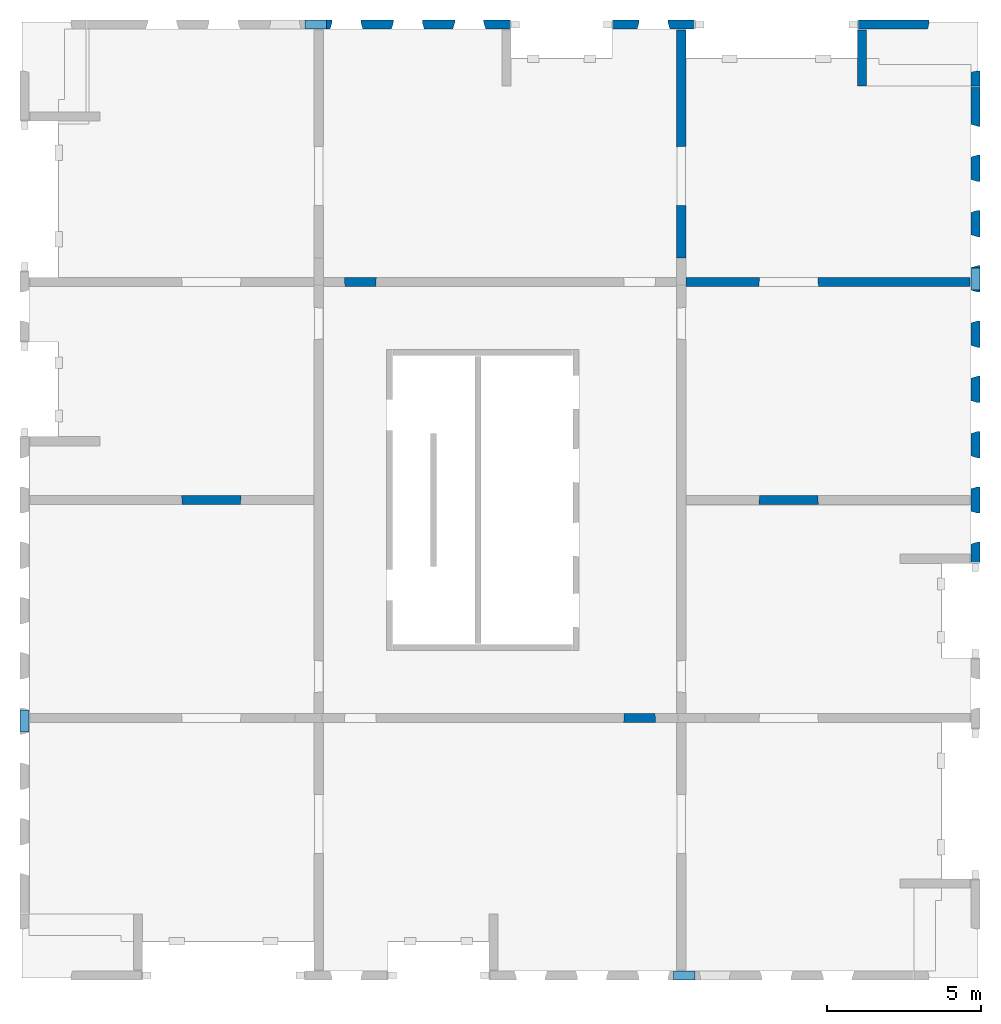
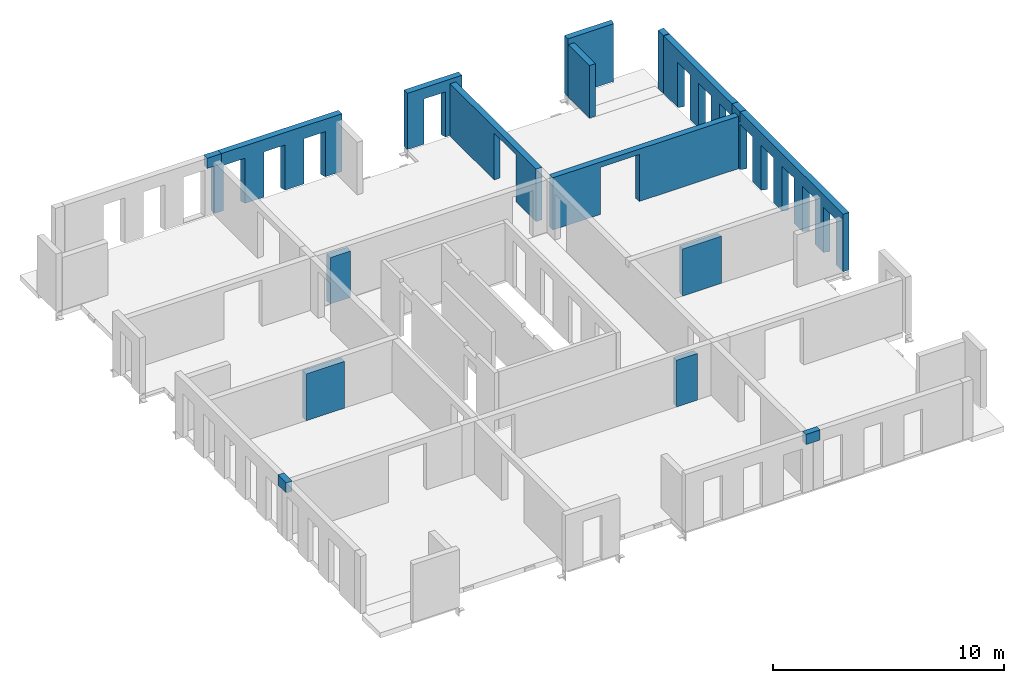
# One storey, part 4 of 5: 17 walls, 19 openings.
"""IFC2X3 building model written with IfcOpenShell, lengths in millimetres."""

from ifc_helpers import new_model, entity, si_unit, converted_unit, derived_unit, direction, frame, frame_2d, origin, place, context, subcontext, project, spatial, rectangle, extrude, faceted_brep, material, layer, layer_set, layer_usage, type_object, element, save


model = new_model("IFC2X3")

# Units and contexts
model_context = context("Model", 3, precision=0.01, world=origin(), true_north=direction((6.12303176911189e-17, 1.0)))
body_context = subcontext(model_context, "Body", "Model", "MODEL_VIEW")
ifc_project = project(units=[si_unit("LENGTHUNIT", "METRE", prefix="MILLI"), si_unit("AREAUNIT", "SQUARE_METRE"), si_unit("VOLUMEUNIT", "CUBIC_METRE"), converted_unit("PLANEANGLEUNIT", "DEGREE", entity("IfcRatioMeasure", 0.0174532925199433), si_unit("PLANEANGLEUNIT", "RADIAN"), dimensions=[0, 0, 0, 0, 0, 0, 0]), si_unit("MASSUNIT", "GRAM", prefix="KILO"), derived_unit("MASSDENSITYUNIT", [(si_unit("MASSUNIT", "GRAM", prefix="KILO"), 1), (si_unit("LENGTHUNIT", "METRE"), -3)]), si_unit("TIMEUNIT", "SECOND"), si_unit("FREQUENCYUNIT", "HERTZ"), si_unit("THERMODYNAMICTEMPERATUREUNIT", "DEGREE_CELSIUS"), derived_unit("THERMALTRANSMITTANCEUNIT", [(si_unit("MASSUNIT", "GRAM", prefix="KILO"), 1), (si_unit("THERMODYNAMICTEMPERATUREUNIT", "KELVIN"), -1), (si_unit("TIMEUNIT", "SECOND"), -3)]), derived_unit("VOLUMETRICFLOWRATEUNIT", [(si_unit("LENGTHUNIT", "METRE"), 3), (si_unit("TIMEUNIT", "SECOND"), -1)]), si_unit("ELECTRICCURRENTUNIT", "AMPERE"), si_unit("ELECTRICVOLTAGEUNIT", "VOLT"), si_unit("POWERUNIT", "WATT"), si_unit("FORCEUNIT", "NEWTON", prefix="KILO"), si_unit("ILLUMINANCEUNIT", "LUX"), si_unit("LUMINOUSFLUXUNIT", "LUMEN"), si_unit("LUMINOUSINTENSITYUNIT", "CANDELA"), derived_unit("USERDEFINED", [(si_unit("MASSUNIT", "GRAM", prefix="KILO"), -1), (si_unit("LENGTHUNIT", "METRE"), -2), (si_unit("TIMEUNIT", "SECOND"), 3), (si_unit("LUMINOUSFLUXUNIT", "LUMEN"), 1)]), derived_unit("LINEARVELOCITYUNIT", [(si_unit("LENGTHUNIT", "METRE"), 1), (si_unit("TIMEUNIT", "SECOND"), -1)]), si_unit("PRESSUREUNIT", "PASCAL"), derived_unit("USERDEFINED", [(si_unit("LENGTHUNIT", "METRE"), -2), (si_unit("MASSUNIT", "GRAM", prefix="KILO"), 1), (si_unit("TIMEUNIT", "SECOND"), -2)])], contexts=[model_context])

# Site, building, storey
site_placement = place(None, origin())
site = spatial("IfcSite", under=ifc_project, at=site_placement, Name="Default", CompositionType="ELEMENT")
building_placement = place(site_placement, origin())
building = spatial("IfcBuilding", under=site, at=building_placement, Name="niet gebruiken", CompositionType="ELEMENT")
storey_placement = place(building_placement, frame((0.0, 0.0, 158760.0)))
storey = spatial("IfcBuildingStorey", under=building, at=storey_placement, Name="51 eenenvijftigste verdieping", CompositionType="ELEMENT", Elevation=158760.0)

# Wall, opening
ifc_material_1 = material(Name="NLRS_f2_beton prefab")
ifc_layer_1 = layer(ifc_material_1, 300.0)
ifc_layer_set_1 = layer_set([ifc_layer_1], Name="Basic Wall:NLRS_22.21_WA_beton prefab d=300_gen")
ifc_layer_usage_1 = layer_usage(ifc_layer_set_1, "AXIS2", "NEGATIVE", 150.0)
wall_type_1 = type_object("IfcWallType", Name="Basic Wall:NLRS_22.21_WA_beton prefab d=300_gen", PredefinedType="STANDARD", material=ifc_layer_set_1)
wall_1_placement = place(storey_placement, frame((145390.0, 32980.0, -50.0)))
wall_1 = element("IfcWallStandardCase", 1, at=wall_1_placement, inside=storey, type_object=wall_type_1, material=ifc_layer_usage_1, Name="Basic Wall:NLRS_22.21_WA_beton prefab d=300_gen", ObjectType="Basic Wall:NLRS_22.21_WA_beton prefab d=300_gen", context=body_context, shape_type="SweptSolid", body=[
    extrude(rectangle(XDim=2720.00000000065, YDim=300.000000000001, at=frame_2d((1360.00000000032, -4.54747350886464e-13), x_axis=(-1.0, 0.0))), origin(), (0.0, 0.0, 1.0), 2970.00000000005),
])
opening_1_placement = place(wall_1_placement, frame((825.0, -150.0, -20.0)))
element("IfcOpeningElement", 2, at=opening_1_placement, cuts=wall_1, Name="Basic Wall:NLRS_22.21_WA_beton prefab d=300_gen", ObjectType="Opening", context=body_context, shape_type="Brep", body=[
    faceted_brep([(0.0, 0.0, 2405.0), (0.0, 0.0, 0.0), (1070.0, 0.0, 0.0), (1070.0, 0.0, 2405.0), (1005.0, 219.0, 2370.0), (65.0, 219.0, 2370.0), (1005.0, 219.0, 0.0), (65.0, 219.0, 0.0), (65.0, 300.0, 0.0), (1005.0, 300.0, 0.0), (65.0, 300.0, 2370.0), (1005.0, 300.0, 2370.0)], [[[0, 1, 2, 3]], [[3, 4, 5, 0]], [[2, 6, 4, 3]], [[1, 7, 8, 9, 6, 2]], [[0, 5, 7, 1]], [[10, 11, 9, 8]], [[10, 5, 4, 11]], [[11, 4, 6, 9]], [[8, 7, 5, 10]]]),
])

ifc_layer_usage_2 = layer_usage(ifc_layer_set_1, "AXIS2", "NEGATIVE", 150.0)
wall_2_placement = place(storey_placement, frame((157060.0, 24600.0, -60.0), z_axis=(0.0, 0.0, 1.0), x_axis=(-1.0, 0.0, 0.0)))
wall_2 = element("IfcWallStandardCase", 3, at=wall_2_placement, inside=storey, type_object=wall_type_1, material=ifc_layer_usage_2, Name="Basic Wall:NLRS_22.21_WA_beton prefab d=300_gen", ObjectType="Basic Wall:NLRS_22.21_WA_beton prefab d=300_gen", context=body_context, shape_type="SweptSolid", body=[
    extrude(rectangle(XDim=9260.00000000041, YDim=300.000000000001, at=frame_2d((4630.0000000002, -1.69109171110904e-12), x_axis=(-1.0, 0.0))), origin(), (0.0, 0.0, 1.0), 2760.0),
])
opening_2_placement = place(wall_2_placement, frame((6878.0, 150.0, -10.0)))
element("IfcOpeningElement", 4, at=opening_2_placement, cuts=wall_2, Name="Basic Wall:NLRS_22.21_WA_beton prefab d=300_gen", ObjectType="Opening", context=body_context, shape_type="Brep", body=[
    faceted_brep([(-18.0, -300.0, 2470.0), (-1918.0, -300.0, 2470.0), (-1918.0, -300.0, 0.0), (-18.0, -300.0, 0.0), (0.0, 0.0, 2488.0), (0.0, 0.0, 0.0), (-1936.0, 0.0, 0.0), (-1936.0, 0.0, 2488.0)], [[[0, 1, 2, 3]], [[4, 5, 6, 7]], [[4, 7, 1, 0]], [[7, 6, 2, 1]], [[6, 5, 3, 2]], [[5, 4, 0, 3]]]),
])

ifc_layer_usage_3 = layer_usage(ifc_layer_set_1, "AXIS2", "NEGATIVE", 150.0)
wall_3_placement = place(storey_placement, frame((147650.0, 25380.0, -70.0), z_axis=(0.0, 0.0, 1.0), x_axis=(0.0, 1.0, 0.0)))
wall_3 = element("IfcWallStandardCase", 5, at=wall_3_placement, inside=storey, type_object=wall_type_1, material=ifc_layer_usage_3, Name="Basic Wall:NLRS_22.21_WA_beton prefab d=300_gen", ObjectType="Basic Wall:NLRS_22.21_WA_beton prefab d=300_gen", context=body_context, shape_type="SweptSolid", body=[
    extrude(rectangle(XDim=7429.99999999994, YDim=300.000000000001, at=frame_2d((3714.99999999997, 7.14805992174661e-12), x_axis=(-1.0, 0.0))), origin(), (0.0, 0.0, 1.0), 2769.99999999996),
])
opening_3_placement = place(wall_3_placement, frame((1702.0, 150.0, 0.0)))
element("IfcOpeningElement", 6, at=opening_3_placement, cuts=wall_3, Name="Basic Wall:NLRS_22.21_WA_beton prefab d=300_gen", ObjectType="Opening", context=body_context, shape_type="Brep", body=[
    faceted_brep([(1918.0, 0.0, 2470.0), (1918.0, 0.0, 0.0), (18.0, 0.0, 0.0), (18.0, 0.0, 2470.0), (1936.0, -300.0, 2488.0), (0.0, -300.0, 2488.0), (0.0, -300.0, 0.0), (1936.0, -300.0, 0.0)], [[[0, 1, 2, 3]], [[4, 5, 6, 7]], [[4, 0, 3, 5]], [[5, 3, 2, 6]], [[6, 2, 1, 7]], [[7, 1, 0, 4]]]),
])

# Walls
ifc_layer_usage_4 = layer_usage(ifc_layer_set_1, "AXIS2", "NEGATIVE", 150.0)
wall_4_placement = place(storey_placement, frame((153540.0, 32810.0, -70.0), z_axis=(0.0, 0.0, 1.0), x_axis=(0.0, -1.0, 0.0)))
element("IfcWallStandardCase", 7, at=wall_4_placement, inside=storey, type_object=wall_type_1, material=ifc_layer_usage_4, Name="Basic Wall:NLRS_22.21_WA_beton prefab d=300_gen", ObjectType="Basic Wall:NLRS_22.21_WA_beton prefab d=300_gen", context=body_context, shape_type="SweptSolid", body=[
    extrude(rectangle(XDim=1829.99999999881, YDim=300.000000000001, at=frame_2d((914.999999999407, -2.07478478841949e-12), x_axis=(-1.0, 0.0))), origin(), (0.0, 0.0, 1.0), 2769.99999999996),
])
ifc_material_2 = material(Name="NLRS_f2_beton ihwg")
ifc_layer_2 = layer(ifc_material_2, 300.0)
ifc_layer_set_2 = layer_set([ifc_layer_2], Name="Basic Wall:NLRS_21.21_WA_beton ihwg d=300_gen")
ifc_layer_usage_5 = layer_usage(ifc_layer_set_2, "AXIS2", "NEGATIVE", 150.0)
wall_type_2 = type_object("IfcWallType", Name="Basic Wall:NLRS_21.21_WA_beton ihwg d=300_gen", PredefinedType="STANDARD", material=ifc_layer_set_2)
wall_5_placement = place(storey_placement, frame((148105.0, 2020.0, 2455.0), z_axis=(0.0, 0.0, 1.0), x_axis=(-1.0, 0.0, 0.0)))
element("IfcWallStandardCase", 8, at=wall_5_placement, inside=storey, type_object=wall_type_2, material=ifc_layer_usage_5, Name="Basic Wall:NLRS_21.21_WA_beton ihwg d=300_gen", ObjectType="Basic Wall:NLRS_21.21_WA_beton ihwg d=300_gen", context=body_context, shape_type="SweptSolid", body=[
    extrude(rectangle(XDim=710.000000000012, YDim=300.0, at=frame_2d((355.000000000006, -1.4210854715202e-14), x_axis=(-1.0, 0.0))), origin(), (0.0, 0.0, 1.0), 535.0),
])
ifc_layer_usage_6 = layer_usage(ifc_layer_set_2, "AXIS2", "NEGATIVE", 150.0)
wall_6_placement = place(storey_placement, frame((135395.0, 32980.0, 2455.0)))
element("IfcWallStandardCase", 9, at=wall_6_placement, inside=storey, type_object=wall_type_2, material=ifc_layer_usage_6, Name="Basic Wall:NLRS_21.21_WA_beton ihwg d=300_gen", ObjectType="Basic Wall:NLRS_21.21_WA_beton ihwg d=300_gen", context=body_context, shape_type="SweptSolid", body=[
    extrude(rectangle(XDim=710.000000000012, YDim=300.000000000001, at=frame_2d((355.000000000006, 0.0), x_axis=(-1.0, 0.0))), origin(), (0.0, 0.0, 1.0), 535.0),
])
ifc_layer_usage_7 = layer_usage(ifc_layer_set_2, "AXIS2", "NEGATIVE", 150.0)
wall_7_placement = place(storey_placement, frame((157230.0, 25055.0, 2455.0), z_axis=(0.0, 0.0, 1.0), x_axis=(0.0, -1.0, 0.0)))
element("IfcWallStandardCase", 10, at=wall_7_placement, inside=storey, type_object=wall_type_2, material=ifc_layer_usage_7, Name="Basic Wall:NLRS_21.21_WA_beton ihwg d=300_gen", ObjectType="Basic Wall:NLRS_21.21_WA_beton ihwg d=300_gen", context=body_context, shape_type="SweptSolid", body=[
    extrude(rectangle(XDim=710.000000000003, YDim=300.000000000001, at=frame_2d((355.000000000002, 9.9475983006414e-13), x_axis=(-1.0, 0.0))), origin(), (0.0, 0.0, 1.0), 535.0),
])
ifc_layer_usage_8 = layer_usage(ifc_layer_set_2, "AXIS2", "NEGATIVE", 150.0)
wall_8_placement = place(storey_placement, frame((126270.0, 9945.0, 2455.0), z_axis=(0.0, 0.0, 1.0), x_axis=(0.0, 1.0, 0.0)))
element("IfcWallStandardCase", 11, at=wall_8_placement, inside=storey, type_object=wall_type_2, material=ifc_layer_usage_8, Name="Basic Wall:NLRS_21.21_WA_beton ihwg d=300_gen", ObjectType="Basic Wall:NLRS_21.21_WA_beton ihwg d=300_gen", context=body_context, shape_type="SweptSolid", body=[
    extrude(rectangle(XDim=710.000000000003, YDim=300.000000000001, at=frame_2d((355.000000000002, 0.0), x_axis=(-1.0, 0.0))), origin(), (0.0, 0.0, 1.0), 535.0),
])

# Wall, openings
ifc_layer_3 = layer(ifc_material_1, 300.0)
ifc_layer_set_3 = layer_set([ifc_layer_3], Name="Basic Wall:NLRS_21.21_WA_beton prefab d=300/320_gen")
ifc_layer_usage_9 = layer_usage(ifc_layer_set_3, "AXIS2", "NEGATIVE", 150.0)
wall_type_3 = type_object("IfcWallType", Name="Basic Wall:NLRS_21.21_WA_beton prefab d=300/320_gen", PredefinedType="STANDARD", material=ifc_layer_set_3)
wall_9_placement = place(storey_placement, frame((157230.0, 30960.0, -50.0), z_axis=(0.0, 0.0, 1.0), x_axis=(0.0, -1.0, 0.0)))
wall_9 = element("IfcWallStandardCase", 12, at=wall_9_placement, inside=storey, type_object=wall_type_3, material=ifc_layer_usage_9, Name="Basic Wall:NLRS_21.21_WA_beton prefab d=300/320_gen", ObjectType="Basic Wall:NLRS_21.21_WA_beton prefab d=300/320_gen", context=body_context, shape_type="SweptSolid", body=[
    extrude(rectangle(XDim=6249.99999999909, YDim=300.000000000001, at=frame_2d((3124.99999999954, -8.61177795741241e-12), x_axis=(-1.0, 0.0))), origin(), (0.0, 0.0, 1.0), 3040.0),
])
opening_4_placement = place(wall_9_placement, frame((2295.0, -150.0, -20.0)))
element("IfcOpeningElement", 13, at=opening_4_placement, cuts=wall_9, Name="Basic Wall:NLRS_21.21_WA_beton prefab d=300/320_gen", ObjectType="Opening", context=body_context, shape_type="Brep", body=[
    faceted_brep([(-1070.0, 0.0, 2405.0), (-1070.0, 0.0, 0.0), (0.0, 0.0, 0.0), (0.0, 0.0, 2405.0), (-65.0, 219.0, 2370.0), (-1005.0, 219.0, 2370.0), (-65.0, 219.0, 0.0), (-1005.0, 219.0, 0.0), (-1005.0, 300.0, 0.0), (-65.0, 300.0, 0.0), (-1005.0, 300.0, 2370.0), (-65.0, 300.0, 2370.0)], [[[0, 1, 2, 3]], [[3, 4, 5, 0]], [[2, 6, 4, 3]], [[1, 7, 8, 9, 6, 2]], [[0, 5, 7, 1]], [[10, 11, 9, 8]], [[10, 5, 4, 11]], [[11, 4, 6, 9]], [[8, 7, 5, 10]]]),
])
opening_5_placement = place(wall_9_placement, frame((4095.0, -150.0, -20.0)))
element("IfcOpeningElement", 14, at=opening_5_placement, cuts=wall_9, Name="Basic Wall:NLRS_21.21_WA_beton prefab d=300/320_gen", ObjectType="Opening", context=body_context, shape_type="Brep", body=[
    faceted_brep([(-1070.0, 0.0, 2405.0), (-1070.0, 0.0, 0.0), (0.0, 0.0, 0.0), (0.0, 0.0, 2405.0), (-65.0, 219.0, 2370.0), (-1005.0, 219.0, 2370.0), (-65.0, 219.0, 0.0), (-1005.0, 219.0, 0.0), (-1005.0, 300.0, 0.0), (-65.0, 300.0, 0.0), (-1005.0, 300.0, 2370.0), (-65.0, 300.0, 2370.0)], [[[0, 1, 2, 3]], [[3, 4, 5, 0]], [[2, 6, 4, 3]], [[1, 7, 8, 9, 6, 2]], [[0, 5, 7, 1]], [[10, 11, 9, 8]], [[10, 5, 4, 11]], [[11, 4, 6, 9]], [[8, 7, 5, 10]]]),
])
opening_6_placement = place(wall_9_placement, frame((5895.0, -150.0, -20.0)))
element("IfcOpeningElement", 15, at=opening_6_placement, cuts=wall_9, Name="Basic Wall:NLRS_21.21_WA_beton prefab d=300/320_gen", ObjectType="Opening", context=body_context, shape_type="Brep", body=[
    faceted_brep([(-1070.0, 0.0, 2405.0), (-1070.0, 0.0, 0.0), (0.0, 0.0, 0.0), (0.0, 0.0, 2405.0), (-65.0, 219.0, 2370.0), (-1005.0, 219.0, 2370.0), (-65.0, 219.0, 0.0), (-1005.0, 219.0, 0.0), (-1005.0, 300.0, 0.0), (-65.0, 300.0, 0.0), (-1005.0, 300.0, 2370.0), (-65.0, 300.0, 2370.0)], [[[0, 1, 2, 3]], [[3, 4, 5, 0]], [[2, 6, 4, 3]], [[1, 7, 8, 9, 6, 2]], [[0, 5, 7, 1]], [[10, 11, 9, 8]], [[10, 5, 4, 11]], [[11, 4, 6, 9]], [[8, 7, 5, 10]]]),
])
opening_7_placement = place(wall_9_placement, origin())
element("IfcOpeningElement", 16, at=opening_7_placement, cuts=wall_9, Name="Basic Wall:NLRS_21.21_WA_beton prefab d=300/320_gen", ObjectType="Opening", context=body_context, shape_type="SweptSolid", body=[
    extrude(rectangle(XDim=534.99999999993, YDim=344.999999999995, at=frame_2d((0.0, -2.17426077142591e-12), x_axis=(1.0, 0.0))), frame((6077.49999999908, 150.0, 2772.50000000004), z_axis=(0.0, -1.0, 0.0), x_axis=(0.0, 0.0, 1.0)), (0.0, 0.0, 1.0), 300.0),
])

# Wall, opening
ifc_layer_usage_10 = layer_usage(ifc_layer_set_3, "AXIS2", "NEGATIVE", 150.0)
wall_10_placement = place(storey_placement, frame((153390.0, 32980.0, -50.0)))
wall_10 = element("IfcWallStandardCase", 17, at=wall_10_placement, inside=storey, type_object=wall_type_3, material=ifc_layer_usage_10, Name="Basic Wall:NLRS_21.21_WA_beton prefab d=300/320_gen", ObjectType="Basic Wall:NLRS_21.21_WA_beton prefab d=300/320_gen", context=body_context, shape_type="SweptSolid", body=[
    extrude(rectangle(XDim=2330.00000000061, YDim=300.000000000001, at=frame_2d((1165.00000000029, -1.29318777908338e-12), x_axis=(-1.0, 0.0))), origin(), (0.0, 0.0, 1.0), 3040.0),
])
opening_8_placement = place(wall_10_placement, frame((2265.0, -250.0, 0.0)))
element("IfcOpeningElement", 18, at=opening_8_placement, cuts=wall_10, Name="Basic Wall:NLRS_21.21_WA_beton prefab d=300/320_gen", ObjectType="Opening", context=body_context, shape_type="Brep", body=[
    faceted_brep([(65.0, 0.0, 3040.0), (65.0, 319.0, 3040.0), (0.0, 0.0, 3040.0), (65.0, 0.0, 0.0), (0.0, 0.0, 0.0), (65.0, 319.0, 0.0)], [[[0, 1, 2]], [[3, 4, 5]], [[2, 4, 3, 0]], [[0, 3, 5, 1]], [[1, 5, 4, 2]]]),
])

ifc_layer_usage_11 = layer_usage(ifc_layer_set_3, "AXIS2", "NEGATIVE", 150.0)
wall_11_placement = place(storey_placement, frame((157230.0, 31470.0, -50.0), z_axis=(0.0, 0.0, 1.0), x_axis=(0.0, -1.0, 0.0)))
wall_11 = element("IfcWallStandardCase", 19, at=wall_11_placement, inside=storey, type_object=wall_type_3, material=ifc_layer_usage_11, Name="Basic Wall:NLRS_21.21_WA_beton prefab d=300/320_gen", ObjectType="Basic Wall:NLRS_21.21_WA_beton prefab d=300/320_gen", context=body_context, shape_type="SweptSolid", body=[
    extrude(rectangle(XDim=489.999999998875, YDim=300.000000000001, at=frame_2d((244.999999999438, -7.8159700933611e-13), x_axis=(-1.0, 0.0))), origin(), (0.0, 0.0, 1.0), 3040.0),
])
opening_9_placement = place(wall_11_placement, frame((65.0, -250.0, 0.0)))
element("IfcOpeningElement", 20, at=opening_9_placement, cuts=wall_11, Name="Basic Wall:NLRS_21.21_WA_beton prefab d=300/320_gen", ObjectType="Opening", context=body_context, shape_type="Brep", body=[
    faceted_brep([(-65.0, 0.0, 3040.0), (0.0, 0.0, 3040.0), (-65.0, 319.0, 3040.0), (-65.0, 0.0, 0.0), (-65.0, 319.0, 0.0), (0.0, 0.0, 0.0)], [[[0, 1, 2]], [[3, 4, 5]], [[1, 0, 3, 5]], [[0, 2, 4, 3]], [[2, 1, 5, 4]]]),
])

# Wall, openings
ifc_layer_usage_12 = layer_usage(ifc_layer_set_3, "AXIS2", "NEGATIVE", 150.0)
wall_12_placement = place(storey_placement, frame((157230.0, 24690.0, -50.0), z_axis=(0.0, 0.0, 1.0), x_axis=(0.0, -1.0, 0.0)))
wall_12 = element("IfcWallStandardCase", 21, at=wall_12_placement, inside=storey, type_object=wall_type_3, material=ifc_layer_usage_12, Name="Basic Wall:NLRS_21.21_WA_beton prefab d=300/320_gen", ObjectType="Basic Wall:NLRS_21.21_WA_beton prefab d=300/320_gen", context=body_context, shape_type="SweptSolid", body=[
    extrude(rectangle(XDim=9250.00000000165, YDim=300.000000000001, at=frame_2d((4625.00000000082, -4.43378667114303e-12), x_axis=(-1.0, 0.0))), origin(), (0.0, 0.0, 1.0), 3040.0),
])
opening_10_placement = place(wall_12_placement, frame((8625.0, -150.0, -20.0)))
element("IfcOpeningElement", 22, at=opening_10_placement, cuts=wall_12, Name="Basic Wall:NLRS_21.21_WA_beton prefab d=300/320_gen", ObjectType="Opening", context=body_context, shape_type="Brep", body=[
    faceted_brep([(-1070.0, 0.0, 2405.0), (-1070.0, 0.0, 0.0), (0.0, 0.0, 0.0), (0.0, 0.0, 2405.0), (-65.0, 219.0, 2370.0), (-1005.0, 219.0, 2370.0), (-65.0, 219.0, 0.0), (-1005.0, 219.0, 0.0), (-1005.0, 300.0, 0.0), (-65.0, 300.0, 0.0), (-1005.0, 300.0, 2370.0), (-65.0, 300.0, 2370.0)], [[[0, 1, 2, 3]], [[3, 4, 5, 0]], [[2, 6, 4, 3]], [[1, 7, 8, 9, 6, 2]], [[0, 5, 7, 1]], [[10, 11, 9, 8]], [[10, 5, 4, 11]], [[11, 4, 6, 9]], [[8, 7, 5, 10]]]),
])
opening_11_placement = place(wall_12_placement, frame((5025.0, -150.0, -20.0)))
element("IfcOpeningElement", 23, at=opening_11_placement, cuts=wall_12, Name="Basic Wall:NLRS_21.21_WA_beton prefab d=300/320_gen", ObjectType="Opening", context=body_context, shape_type="Brep", body=[
    faceted_brep([(-1070.0, 0.0, 2405.0), (-1070.0, 0.0, 0.0), (0.0, 0.0, 0.0), (0.0, 0.0, 2405.0), (-65.0, 219.0, 2370.0), (-1005.0, 219.0, 2370.0), (-65.0, 219.0, 0.0), (-1005.0, 219.0, 0.0), (-1005.0, 300.0, 0.0), (-65.0, 300.0, 0.0), (-1005.0, 300.0, 2370.0), (-65.0, 300.0, 2370.0)], [[[0, 1, 2, 3]], [[3, 4, 5, 0]], [[2, 6, 4, 3]], [[1, 7, 8, 9, 6, 2]], [[0, 5, 7, 1]], [[10, 11, 9, 8]], [[10, 5, 4, 11]], [[11, 4, 6, 9]], [[8, 7, 5, 10]]]),
])
opening_12_placement = place(wall_12_placement, frame((3225.0, -150.0, -20.0)))
element("IfcOpeningElement", 24, at=opening_12_placement, cuts=wall_12, Name="Basic Wall:NLRS_21.21_WA_beton prefab d=300/320_gen", ObjectType="Opening", context=body_context, shape_type="Brep", body=[
    faceted_brep([(-1070.0, 0.0, 2405.0), (-1070.0, 0.0, 0.0), (0.0, 0.0, 0.0), (0.0, 0.0, 2405.0), (-65.0, 219.0, 2370.0), (-1005.0, 219.0, 2370.0), (-65.0, 219.0, 0.0), (-1005.0, 219.0, 0.0), (-1005.0, 300.0, 0.0), (-65.0, 300.0, 0.0), (-1005.0, 300.0, 2370.0), (-65.0, 300.0, 2370.0)], [[[0, 1, 2, 3]], [[3, 4, 5, 0]], [[2, 6, 4, 3]], [[1, 7, 8, 9, 6, 2]], [[0, 5, 7, 1]], [[10, 11, 9, 8]], [[10, 5, 4, 11]], [[11, 4, 6, 9]], [[8, 7, 5, 10]]]),
])
opening_13_placement = place(wall_12_placement, frame((6825.0, -150.0, -20.0)))
element("IfcOpeningElement", 25, at=opening_13_placement, cuts=wall_12, Name="Basic Wall:NLRS_21.21_WA_beton prefab d=300/320_gen", ObjectType="Opening", context=body_context, shape_type="Brep", body=[
    faceted_brep([(-1070.0, 0.0, 2405.0), (-1070.0, 0.0, 0.0), (0.0, 0.0, 0.0), (0.0, 0.0, 2405.0), (-65.0, 219.0, 2370.0), (-1005.0, 219.0, 2370.0), (-65.0, 219.0, 0.0), (-1005.0, 219.0, 0.0), (-1005.0, 300.0, 0.0), (-65.0, 300.0, 0.0), (-1005.0, 300.0, 2370.0), (-65.0, 300.0, 2370.0)], [[[0, 1, 2, 3]], [[3, 4, 5, 0]], [[2, 6, 4, 3]], [[1, 7, 8, 9, 6, 2]], [[0, 5, 7, 1]], [[10, 11, 9, 8]], [[10, 5, 4, 11]], [[11, 4, 6, 9]], [[8, 7, 5, 10]]]),
])
opening_14_placement = place(wall_12_placement, frame((1425.0, -150.0, -20.0)))
element("IfcOpeningElement", 26, at=opening_14_placement, cuts=wall_12, Name="Basic Wall:NLRS_21.21_WA_beton prefab d=300/320_gen", ObjectType="Opening", context=body_context, shape_type="Brep", body=[
    faceted_brep([(0.0, 0.0, 2405.0), (-1070.0, 0.0, 2405.0), (-1070.0, 0.0, 0.0), (0.0, 0.0, 0.0), (-65.0, 219.0, 2370.0), (-1005.0, 219.0, 2370.0), (-1005.0, 219.0, 0.0), (-1005.0, 300.0, 0.0), (-65.0, 300.0, 0.0), (-65.0, 219.0, 0.0), (-65.0, 300.0, 2370.0), (-1005.0, 300.0, 2370.0)], [[[0, 1, 2, 3]], [[1, 0, 4, 5]], [[2, 1, 5, 6]], [[3, 2, 6, 7, 8, 9]], [[0, 3, 9, 4]], [[10, 8, 7, 11]], [[10, 11, 5, 4]], [[11, 7, 6, 5]], [[8, 10, 4, 9]]]),
])
opening_15_placement = place(wall_12_placement, origin())
element("IfcOpeningElement", 27, at=opening_15_placement, cuts=wall_12, Name="Basic Wall:NLRS_21.21_WA_beton prefab d=300/320_gen", ObjectType="Opening", context=body_context, shape_type="SweptSolid", body=[
    extrude(rectangle(XDim=534.999999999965, YDim=345.000000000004, at=frame_2d((-2.1600499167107e-12, 1.73372427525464e-11), x_axis=(0.0, 1.0))), frame((172.5, 150.0, 2772.50000000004), z_axis=(0.0, -1.0, 0.0), x_axis=(-1.0, 0.0, 0.0)), (0.0, 0.0, 1.0), 300.0),
])

ifc_layer_usage_13 = layer_usage(ifc_layer_set_3, "AXIS2", "NEGATIVE", 150.0)
wall_13_placement = place(storey_placement, frame((135760.0, 32980.0, -50.0)))
wall_13 = element("IfcWallStandardCase", 28, at=wall_13_placement, inside=storey, type_object=wall_type_3, material=ifc_layer_usage_13, Name="Basic Wall:NLRS_21.21_WA_beton prefab d=300/320_gen", ObjectType="Basic Wall:NLRS_21.21_WA_beton prefab d=300/320_gen", context=body_context, shape_type="SweptSolid", body=[
    extrude(rectangle(XDim=6350.00000000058, YDim=300.000000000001, at=frame_2d((3175.00000000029, 0.0), x_axis=(-1.0, 0.0))), origin(), (0.0, 0.0, 1.0), 3040.0),
])
opening_16_placement = place(wall_13_placement, frame((455.0, -150.0, -20.0)))
element("IfcOpeningElement", 29, at=opening_16_placement, cuts=wall_13, Name="Basic Wall:NLRS_21.21_WA_beton prefab d=300/320_gen", ObjectType="Opening", context=body_context, shape_type="Brep", body=[
    faceted_brep([(1070.0, 0.0, 2405.0), (0.0, 0.0, 2405.0), (0.0, 0.0, 0.0), (1070.0, 0.0, 0.0), (1005.0, 219.0, 2370.0), (65.0, 219.0, 2370.0), (65.0, 219.0, 0.0), (65.0, 300.0, 0.0), (1005.0, 300.0, 0.0), (1005.0, 219.0, 0.0), (1005.0, 300.0, 2370.0), (65.0, 300.0, 2370.0)], [[[0, 1, 2, 3]], [[1, 0, 4, 5]], [[2, 1, 5, 6]], [[3, 2, 6, 7, 8, 9]], [[0, 3, 9, 4]], [[10, 8, 7, 11]], [[10, 11, 5, 4]], [[11, 7, 6, 5]], [[8, 10, 4, 9]]]),
])
opening_17_placement = place(wall_13_placement, frame((2455.0, -150.0, -20.0)))
element("IfcOpeningElement", 30, at=opening_17_placement, cuts=wall_13, Name="Basic Wall:NLRS_21.21_WA_beton prefab d=300/320_gen", ObjectType="Opening", context=body_context, shape_type="Brep", body=[
    faceted_brep([(1070.0, 0.0, 2405.0), (0.0, 0.0, 2405.0), (0.0, 0.0, 0.0), (1070.0, 0.0, 0.0), (1005.0, 219.0, 2370.0), (65.0, 219.0, 2370.0), (65.0, 219.0, 0.0), (65.0, 300.0, 0.0), (1005.0, 300.0, 0.0), (1005.0, 219.0, 0.0), (1005.0, 300.0, 2370.0), (65.0, 300.0, 2370.0)], [[[0, 1, 2, 3]], [[1, 0, 4, 5]], [[2, 1, 5, 6]], [[3, 2, 6, 7, 8, 9]], [[0, 3, 9, 4]], [[10, 8, 7, 11]], [[10, 11, 5, 4]], [[11, 7, 6, 5]], [[8, 10, 4, 9]]]),
])
opening_18_placement = place(wall_13_placement, frame((4455.0, -150.0, -20.0)))
element("IfcOpeningElement", 31, at=opening_18_placement, cuts=wall_13, Name="Basic Wall:NLRS_21.21_WA_beton prefab d=300/320_gen", ObjectType="Opening", context=body_context, shape_type="Brep", body=[
    faceted_brep([(1070.0, 0.0, 2405.0), (0.0, 0.0, 2405.0), (0.0, 0.0, 0.0), (1070.0, 0.0, 0.0), (1005.0, 219.0, 2370.0), (65.0, 219.0, 2370.0), (65.0, 219.0, 0.0), (65.0, 300.0, 0.0), (1005.0, 300.0, 0.0), (1005.0, 219.0, 0.0), (1005.0, 300.0, 2370.0), (65.0, 300.0, 2370.0)], [[[0, 1, 2, 3]], [[1, 0, 4, 5]], [[2, 1, 5, 6]], [[3, 2, 6, 7, 8, 9]], [[0, 3, 9, 4]], [[10, 8, 7, 11]], [[10, 11, 5, 4]], [[11, 7, 6, 5]], [[8, 10, 4, 9]]]),
])
opening_19_placement = place(wall_13_placement, origin())
element("IfcOpeningElement", 32, at=opening_19_placement, cuts=wall_13, Name="Basic Wall:NLRS_21.21_WA_beton prefab d=300/320_gen", ObjectType="Opening", context=body_context, shape_type="SweptSolid", body=[
    extrude(rectangle(XDim=534.99999999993, YDim=345.000000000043, at=frame_2d((0.0, 0.0), x_axis=(0.0, 1.0))), frame((172.500000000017, 150.0, 2772.50000000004), z_axis=(0.0, -1.0, 0.0), x_axis=(-1.0, 0.0, 0.0)), (0.0, 0.0, 1.0), 300.0),
])

# Walls
ifc_material_3 = material(Name="NLRS_f2_beton prefab dichtstorten")
wall_type_4 = type_object("IfcWallType", Name="Parametric Wall:NLRS_22.21_WA_beton prefab d=500 1900x2470_gen", PredefinedType="NOTDEFINED", material=ifc_material_3)
wall_14_placement = place(storey_placement, frame((131382.0, 17350.0, -70.0)))
element("IfcWall", 33, at=wall_14_placement, inside=storey, type_object=wall_type_4, material=ifc_material_3, Name="Parametric Wall:NLRS_22.21_WA_beton prefab d=500 1900x2470_gen", ObjectType="Parametric Wall:NLRS_22.21_WA_beton prefab d=500 1900x2470_gen", context=body_context, shape_type="Brep", body=[
    faceted_brep([(1936.0, 300.0, 2488.0), (1936.0, 300.0, 10.0), (1936.0, 300.0, 0.0), (0.0, 300.0, 0.0), (0.0, 300.0, 10.0), (0.0, 300.0, 2488.0), (1918.0, 0.0, 2470.0), (18.0, 0.0, 2470.0), (18.0, 0.0, 10.0), (18.0, 0.0, 0.0), (1918.0, 0.0, 0.0), (1918.0, 0.0, 10.0)], [[[0, 1, 2, 3, 4, 5]], [[6, 7, 8, 9, 10, 11]], [[6, 11, 10, 2, 1, 0]], [[10, 9, 3, 2]], [[9, 8, 7, 5, 4, 3]], [[7, 6, 0, 5]]]),
])
wall_15_placement = place(storey_placement, frame((150182.0, 17350.0, -70.0)))
element("IfcWall", 34, at=wall_15_placement, inside=storey, type_object=wall_type_4, material=ifc_material_3, Name="Parametric Wall:NLRS_22.21_WA_beton prefab d=500 1900x2470_gen", ObjectType="Parametric Wall:NLRS_22.21_WA_beton prefab d=500 1900x2470_gen", context=body_context, shape_type="Brep", body=[
    faceted_brep([(0.0, 0.0, 2488.0), (0.0, 0.0, 10.0), (0.0, 0.0, 0.0), (1936.0, 0.0, 0.0), (1936.0, 0.0, 10.0), (1936.0, 0.0, 2488.0), (18.0, 300.0, 2470.0), (1918.0, 300.0, 2470.0), (1918.0, 300.0, 10.0), (1918.0, 300.0, 0.0), (18.0, 300.0, 0.0), (18.0, 300.0, 10.0)], [[[0, 1, 2, 3, 4, 5]], [[6, 7, 8, 9, 10, 11]], [[6, 11, 10, 2, 1, 0]], [[10, 9, 3, 2]], [[9, 8, 7, 5, 4, 3]], [[7, 6, 0, 5]]]),
])
wall_type_5 = type_object("IfcWallType", Name="Parametric Wall:NLRS_22.21_WA_beton prefab d=500 1006x2448_gen", PredefinedType="NOTDEFINED", material=ifc_material_3)
wall_16_placement = place(storey_placement, frame((145776.0, 10250.0, -70.0)))
element("IfcWall", 35, at=wall_16_placement, inside=storey, type_object=wall_type_5, material=ifc_material_3, Name="Parametric Wall:NLRS_22.21_WA_beton prefab d=500 1006x2448_gen", ObjectType="Parametric Wall:NLRS_22.21_WA_beton prefab d=500 1006x2448_gen", context=body_context, shape_type="Brep", body=[
    faceted_brep([(0.0, 0.0, 2466.0), (0.0, 0.0, 10.0), (0.0, 0.0, 0.0), (1042.0, 0.0, 0.0), (1042.0, 0.0, 10.0), (1042.0, 0.0, 2466.0), (18.0, 300.0, 2448.0), (1024.0, 300.0, 2448.0), (1024.0, 300.0, 10.0), (1024.0, 300.0, 0.0), (18.0, 300.0, 0.0), (18.0, 300.0, 10.0)], [[[0, 1, 2, 3, 4, 5]], [[6, 7, 8, 9, 10, 11]], [[6, 11, 10, 2, 1, 0]], [[10, 9, 3, 2]], [[9, 8, 7, 5, 4, 3]], [[7, 6, 0, 5]]]),
])
wall_17_placement = place(storey_placement, frame((136682.0, 24450.0, -70.0)))
element("IfcWall", 36, at=wall_17_placement, inside=storey, type_object=wall_type_5, material=ifc_material_3, Name="Parametric Wall:NLRS_22.21_WA_beton prefab d=500 1006x2448_gen", ObjectType="Parametric Wall:NLRS_22.21_WA_beton prefab d=500 1006x2448_gen", context=body_context, shape_type="Brep", body=[
    faceted_brep([(1042.0, 300.0, 2466.0), (1042.0, 300.0, 10.0), (1042.0, 300.0, 0.0), (0.0, 300.0, 0.0), (0.0, 300.0, 10.0), (0.0, 300.0, 2466.0), (1024.0, 0.0, 2448.0), (18.0, 0.0, 2448.0), (18.0, 0.0, 10.0), (18.0, 0.0, 0.0), (1024.0, 0.0, 0.0), (1024.0, 0.0, 10.0)], [[[0, 1, 2, 3, 4, 5]], [[6, 7, 8, 9, 10, 11]], [[6, 11, 10, 2, 1, 0]], [[10, 9, 3, 2]], [[9, 8, 7, 5, 4, 3]], [[7, 6, 0, 5]]]),
])

save(model, "model.ifc")
